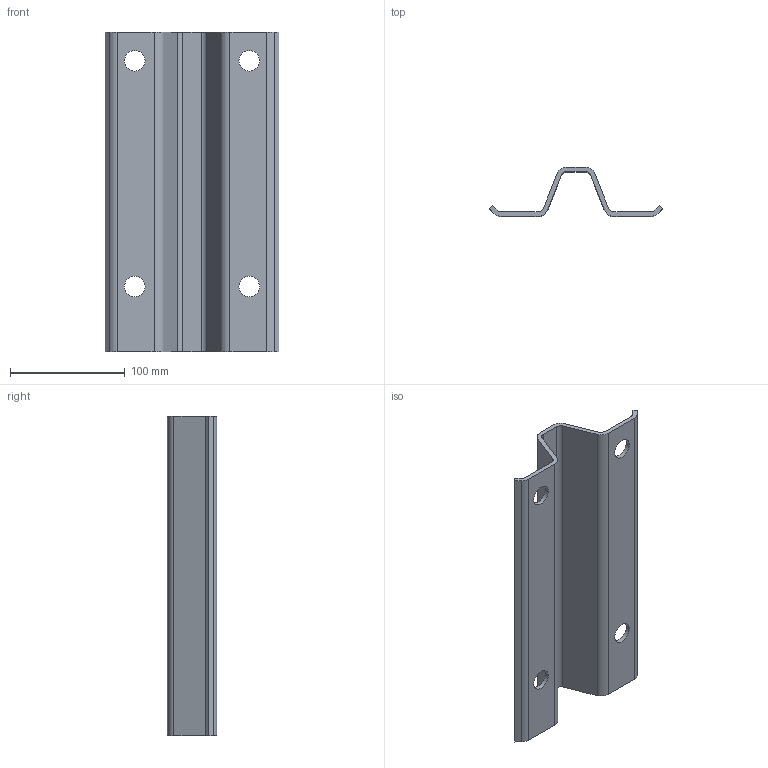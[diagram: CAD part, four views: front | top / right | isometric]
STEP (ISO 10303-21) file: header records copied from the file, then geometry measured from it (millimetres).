
FILE_DESCRIPTION(/* description */ (''),/* implementation_level */ '2;1');
FILE_NAME(/* name */ 'ZC300.stp',/* time_stamp */ '2023-07-03T11:15:49+02:00',/* author */ ('woriedl'),/* organization */ (''),/* preprocessor_version */ 'ST-DEVELOPER v19.2',/* originating_system */ 'AutoCAD Mechanical',/* authorisation */ '');
FILE_SCHEMA (('AUTOMOTIVE_DESIGN { 1 0 10303 214 3 1 1 }'));
Length unit declared in the file: centimetre
Products named in the file (1): Product
Bounding box: 151.72 x 43 x 279 mm (x, y, z)
Volume: 221164.3 mm3; surface area: 115333.5 mm2
Topology: 1 solids, 1 shells, 34 faces, 96 edges, 64 vertices
Faces by surface type: plane 18, cylinder 16
Full cylindrical faces by diameter (mm): 18 x4
Entity records: 1151 total; most frequent: DIRECTION 198, CARTESIAN_POINT 195, ORIENTED_EDGE 192, EDGE_CURVE 96, AXIS2_PLACEMENT_3D 67, LINE 64, VECTOR 64, VERTEX_POINT 64
